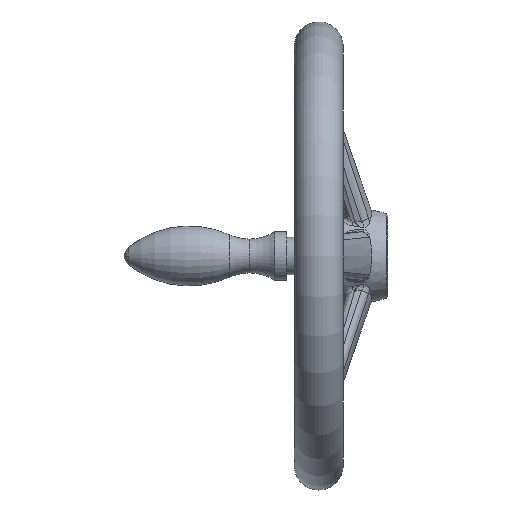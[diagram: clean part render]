
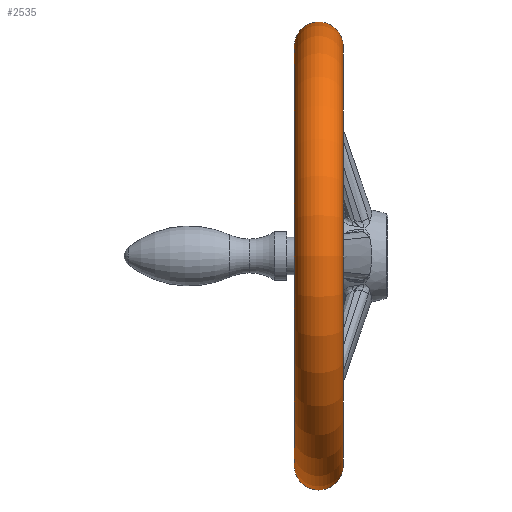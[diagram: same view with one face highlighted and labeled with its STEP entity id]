
A CAD part, left-side view. The second image highlights one B-rep face of the part: STEP entity #2535.
In plain terms, the highlighted toroidal (fillet/blend) face has major radius 111.958 mm and minor radius 13.042 mm.
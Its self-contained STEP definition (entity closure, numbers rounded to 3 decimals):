
#1777 = VERTEX_POINT ( 'NONE', #5234 ) ;
#1796 = EDGE_CURVE ( 'NONE', #1777, #1800, #5314, .T. ) ;
#1800 = VERTEX_POINT ( 'NONE', #5320 ) ;
#2506 = ORIENTED_EDGE ( 'NONE', *, *, #9434, .T. ) ;
#2517 = EDGE_LOOP ( 'NONE', ( #2541, #25637, #2506, #2567 ) ) ;
#2535 = ADVANCED_FACE ( 'NONE', ( #6938 ), #6941, .T. ) ;
#2541 = ORIENTED_EDGE ( 'NONE', *, *, #8026, .F. ) ;
#2567 = ORIENTED_EDGE ( 'NONE', *, *, #1796, .F. ) ;
#5234 = CARTESIAN_POINT ( 'NONE',  ( 0., 24., 113. ) ) ;
#5310 = DIRECTION ( 'NONE',  ( 0., 0., -1. ) ) ;
#5311 = DIRECTION ( 'NONE',  ( 0., -1., 0. ) ) ;
#5312 = CARTESIAN_POINT ( 'NONE',  ( 0., 24., 0. ) ) ;
#5313 = AXIS2_PLACEMENT_3D ( 'NONE', #5312, #5311, #5310 ) ;
#5314 = CIRCLE ( 'NONE', #5313, 113. ) ;
#5320 = CARTESIAN_POINT ( 'NONE',  ( 0., 24., -113. ) ) ;
#6912 = CARTESIAN_POINT ( 'NONE',  ( 0., 37., 0. ) ) ;
#6937 = AXIS2_PLACEMENT_3D ( 'NONE', #6912, #6939, #6982 ) ;
#6938 = FACE_OUTER_BOUND ( 'NONE', #2517, .T. ) ;
#6939 = DIRECTION ( 'NONE',  ( 0., -1., 0. ) ) ;
#6941 = TOROIDAL_SURFACE ( 'NONE', #6937, 111.958, 13.042 ) ;
#6982 = DIRECTION ( 'NONE',  ( 0., 0., -1. ) ) ;
#8026 = EDGE_CURVE ( 'NONE', #15989, #1777, #17355, .T. ) ;
#9434 = EDGE_CURVE ( 'NONE', #15941, #1800, #19828, .T. ) ;
#15941 = VERTEX_POINT ( 'NONE', #28604 ) ;
#15967 = EDGE_CURVE ( 'NONE', #15989, #15941, #29748, .T. ) ;
#15989 = VERTEX_POINT ( 'NONE', #29780 ) ;
#17355 = CIRCLE ( 'NONE', #17367, 13.042 ) ;
#17358 = CARTESIAN_POINT ( 'NONE',  ( 0., 37., 111.958 ) ) ;
#17364 = DIRECTION ( 'NONE',  ( 0., 0., -1. ) ) ;
#17365 = DIRECTION ( 'NONE',  ( 1., 0., 0. ) ) ;
#17367 = AXIS2_PLACEMENT_3D ( 'NONE', #17358, #17365, #17364 ) ;
#19828 = CIRCLE ( 'NONE', #19849, 13.042 ) ;
#19846 = DIRECTION ( 'NONE',  ( 0., 0., 1. ) ) ;
#19847 = DIRECTION ( 'NONE',  ( -1., 0., 0. ) ) ;
#19848 = CARTESIAN_POINT ( 'NONE',  ( 0., 37., -111.958 ) ) ;
#19849 = AXIS2_PLACEMENT_3D ( 'NONE', #19848, #19847, #19846 ) ;
#25637 = ORIENTED_EDGE ( 'NONE', *, *, #15967, .T. ) ;
#28604 = CARTESIAN_POINT ( 'NONE',  ( 0., 50., -113. ) ) ;
#29745 = DIRECTION ( 'NONE',  ( 0., 0., -1. ) ) ;
#29746 = DIRECTION ( 'NONE',  ( 0., -1., 0. ) ) ;
#29747 = AXIS2_PLACEMENT_3D ( 'NONE', #29768, #29746, #29745 ) ;
#29748 = CIRCLE ( 'NONE', #29747, 113. ) ;
#29768 = CARTESIAN_POINT ( 'NONE',  ( 0., 50., 0. ) ) ;
#29780 = CARTESIAN_POINT ( 'NONE',  ( 0., 50., 113. ) ) ;
